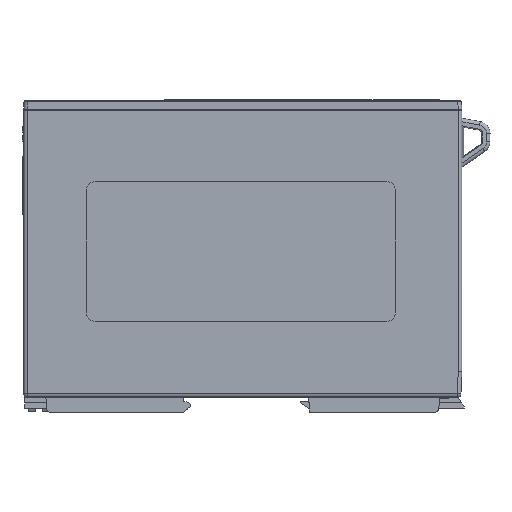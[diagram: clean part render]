
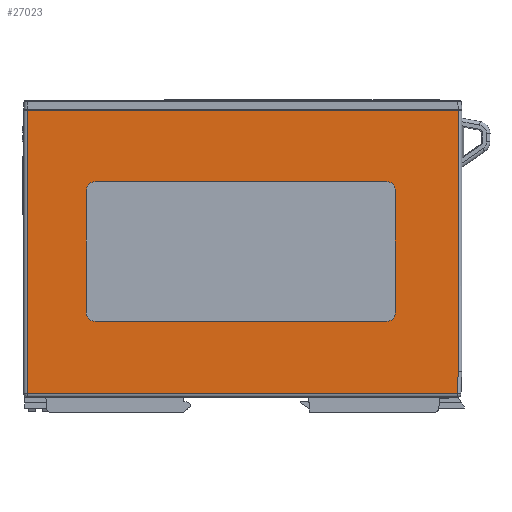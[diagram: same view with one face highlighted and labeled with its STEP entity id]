
A CAD part, front view. The second image highlights one B-rep face of the part: STEP entity #27023.
In plain terms, the highlighted planar face has unit normal (0, -1, 0).
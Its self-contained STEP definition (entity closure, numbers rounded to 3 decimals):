
#4822=DIRECTION('',(0.,0.,1.));
#4823=VECTOR('',#4822,80.3);
#4824=CARTESIAN_POINT('',(-60.5,-13.5,-41.));
#4825=LINE('',#4824,#4823);
#4830=DIRECTION('',(0.035,0.,0.999));
#4831=VECTOR('',#4830,6.321);
#4832=CARTESIAN_POINT('',(61.279,-13.5,-41.));
#4833=LINE('',#4832,#4831);
#4834=DIRECTION('',(-1.,0.,0.));
#4835=VECTOR('',#4834,122.);
#4836=CARTESIAN_POINT('',(61.5,-13.5,39.3));
#4837=LINE('',#4836,#4835);
#4838=DIRECTION('',(0.,0.,-1.));
#4839=VECTOR('',#4838,34.5);
#4840=CARTESIAN_POINT('',(43.75,-13.5,16.5));
#4841=LINE('',#4840,#4839);
#4842=CARTESIAN_POINT('',(41.25,-13.5,16.5));
#4843=DIRECTION('',(0.,1.,0.));
#4844=DIRECTION('',(0.,0.,1.));
#4845=AXIS2_PLACEMENT_3D('',#4842,#4843,#4844);
#4847=DIRECTION('',(1.,0.,0.));
#4848=VECTOR('',#4847,82.5);
#4849=CARTESIAN_POINT('',(-41.25,-13.5,19.));
#4850=LINE('',#4849,#4848);
#4851=CARTESIAN_POINT('',(-41.25,-13.5,16.5));
#4852=DIRECTION('',(0.,1.,0.));
#4853=DIRECTION('',(-1.,0.,0.));
#4854=AXIS2_PLACEMENT_3D('',#4851,#4852,#4853);
#4856=DIRECTION('',(0.,0.,1.));
#4857=VECTOR('',#4856,34.5);
#4858=CARTESIAN_POINT('',(-43.75,-13.5,-18.));
#4859=LINE('',#4858,#4857);
#4860=CARTESIAN_POINT('',(-41.25,-13.5,-18.));
#4861=DIRECTION('',(0.,1.,0.));
#4862=DIRECTION('',(0.,0.,-1.));
#4863=AXIS2_PLACEMENT_3D('',#4860,#4861,#4862);
#4865=DIRECTION('',(-1.,0.,0.));
#4866=VECTOR('',#4865,82.5);
#4867=CARTESIAN_POINT('',(41.25,-13.5,-20.5));
#4868=LINE('',#4867,#4866);
#4869=CARTESIAN_POINT('',(41.25,-13.5,-18.));
#4870=DIRECTION('',(0.,1.,0.));
#4871=DIRECTION('',(1.,0.,0.));
#4872=AXIS2_PLACEMENT_3D('',#4869,#4870,#4871);
#4886=DIRECTION('',(0.,0.,-1.));
#4887=VECTOR('',#4886,73.983);
#4888=CARTESIAN_POINT('',(61.5,-13.5,39.3));
#4889=LINE('',#4888,#4887);
#9546=DIRECTION('',(-1.,0.,0.));
#9547=VECTOR('',#9546,121.779);
#9548=CARTESIAN_POINT('',(61.279,-13.5,-41.));
#9549=LINE('',#9548,#9547);
#17492=CARTESIAN_POINT('',(61.5,-13.5,39.3));
#17493=CARTESIAN_POINT('',(61.5,-13.5,-34.683));
#17494=VERTEX_POINT('',#17492);
#17495=VERTEX_POINT('',#17493);
#17497=CARTESIAN_POINT('',(43.75,-13.5,16.5));
#17498=CARTESIAN_POINT('',(43.75,-13.5,-18.));
#17499=VERTEX_POINT('',#17497);
#17500=VERTEX_POINT('',#17498);
#17501=CARTESIAN_POINT('',(-60.5,-13.5,39.3));
#17502=VERTEX_POINT('',#17501);
#17503=CARTESIAN_POINT('',(61.279,-13.5,-41.));
#17504=VERTEX_POINT('',#17503);
#17509=CARTESIAN_POINT('',(41.25,-13.5,-20.5));
#17510=VERTEX_POINT('',#17509);
#17511=CARTESIAN_POINT('',(41.25,-13.5,19.));
#17512=VERTEX_POINT('',#17511);
#17513=CARTESIAN_POINT('',(-60.5,-13.5,-41.));
#17514=VERTEX_POINT('',#17513);
#17525=CARTESIAN_POINT('',(-41.25,-13.5,-20.5));
#17526=VERTEX_POINT('',#17525);
#17527=CARTESIAN_POINT('',(-41.25,-13.5,19.));
#17528=VERTEX_POINT('',#17527);
#17541=CARTESIAN_POINT('',(-43.75,-13.5,-18.));
#17542=VERTEX_POINT('',#17541);
#17545=CARTESIAN_POINT('',(-43.75,-13.5,16.5));
#17546=VERTEX_POINT('',#17545);
#26990=CARTESIAN_POINT('',(0.,-13.5,0.));
#26991=DIRECTION('',(0.,1.,0.));
#26992=DIRECTION('',(1.,0.,0.));
#26993=AXIS2_PLACEMENT_3D('',#26990,#26991,#26992);
#26994=PLANE('',#26993);
#26996=ORIENTED_EDGE('',*,*,#26995,.T.);
#26998=ORIENTED_EDGE('',*,*,#26997,.F.);
#27000=ORIENTED_EDGE('',*,*,#26999,.T.);
#27001=ORIENTED_EDGE('',*,*,#26982,.T.);
#27002=ORIENTED_EDGE('',*,*,#26971,.F.);
#27003=EDGE_LOOP('',(#26996,#26998,#27000,#27001,#27002));
#27004=FACE_OUTER_BOUND('',#27003,.F.);
#27006=ORIENTED_EDGE('',*,*,#27005,.F.);
#27008=ORIENTED_EDGE('',*,*,#27007,.F.);
#27010=ORIENTED_EDGE('',*,*,#27009,.F.);
#27012=ORIENTED_EDGE('',*,*,#27011,.F.);
#27014=ORIENTED_EDGE('',*,*,#27013,.F.);
#27016=ORIENTED_EDGE('',*,*,#27015,.F.);
#27018=ORIENTED_EDGE('',*,*,#27017,.F.);
#27020=ORIENTED_EDGE('',*,*,#27019,.F.);
#27021=EDGE_LOOP('',(#27006,#27008,#27010,#27012,#27014,#27016,#27018,#27020));
#27022=FACE_BOUND('',#27021,.F.);
#27023=ADVANCED_FACE('',(#27004,#27022),#26994,.F.);
#4846=CIRCLE('',#4845,2.5);
#4855=CIRCLE('',#4854,2.5);
#4864=CIRCLE('',#4863,2.5);
#4873=CIRCLE('',#4872,2.5);
#26971=EDGE_CURVE('',#17494,#17502,#4837,.T.);
#26982=EDGE_CURVE('',#17514,#17502,#4825,.T.);
#26995=EDGE_CURVE('',#17494,#17495,#4889,.T.);
#26997=EDGE_CURVE('',#17504,#17495,#4833,.T.);
#26999=EDGE_CURVE('',#17504,#17514,#9549,.T.);
#27005=EDGE_CURVE('',#17499,#17500,#4841,.T.);
#27007=EDGE_CURVE('',#17512,#17499,#4846,.T.);
#27009=EDGE_CURVE('',#17528,#17512,#4850,.T.);
#27011=EDGE_CURVE('',#17546,#17528,#4855,.T.);
#27013=EDGE_CURVE('',#17542,#17546,#4859,.T.);
#27015=EDGE_CURVE('',#17526,#17542,#4864,.T.);
#27017=EDGE_CURVE('',#17510,#17526,#4868,.T.);
#27019=EDGE_CURVE('',#17500,#17510,#4873,.T.);
